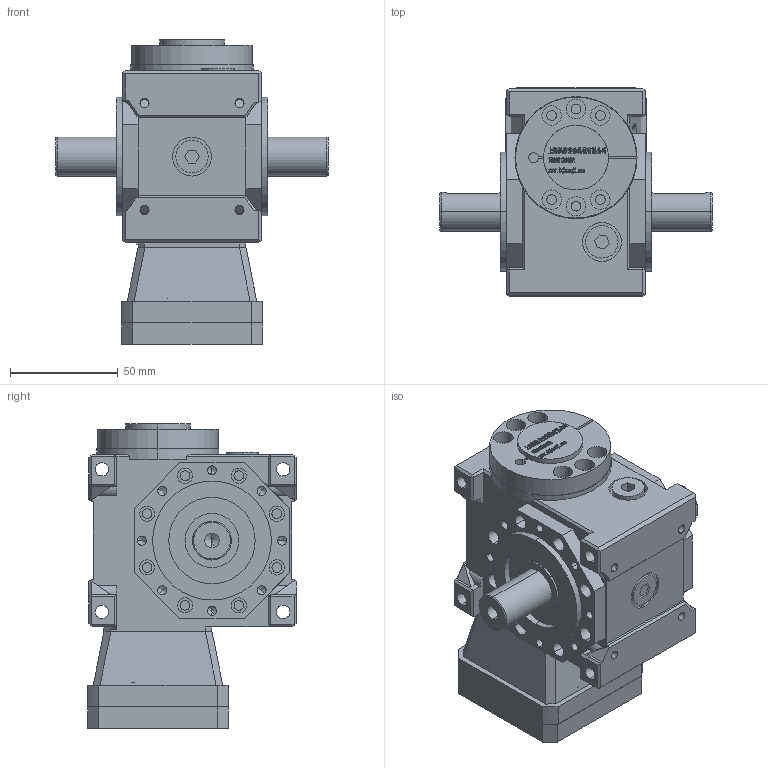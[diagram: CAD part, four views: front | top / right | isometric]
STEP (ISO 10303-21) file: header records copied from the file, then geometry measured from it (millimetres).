
FILE_DESCRIPTION (( 'STEP AP203' ), '1' );
FILE_NAME ('FXLB025-(5~90)-AB-14-50-70-M5.step', '2022-11-06T02:13:04', ( '' ), ( '' ), 'SwSTEP 2.0', 'SolidWorks 2020', '' );
FILE_SCHEMA (( 'CONFIG_CONTROL_DESIGN' ));
Length unit declared in the file: millimetre
Products named in the file (8): ______BD29-33-9-14____.step; JDLB025-ST60________.step; 錨璃74^FXLB025-(5~90)-AB-14-50-70-M5; JDLB025-CR____.step; ST60-50-70-M6____________.step; JDLB025-AB________14.step; FXLB025-(5~90)-AB-14-50-70-M5.step; FXLB025-(5~90)-AB-14-50-70-M5
Assembly tree (7 placements, depth 3):
  FXLB025-(5~90)-AB-14-50-70-M5
    FXLB025-(5~90)-AB-14-50-70-M5.step
      JDLB025-CR____.step
      JDLB025-ST60________.step
      JDLB025-AB________14.step
      ST60-50-70-M6____________.step
      ______BD29-33-9-14____.step
    錨璃74^FXLB025-(5~90)-AB-14-50-70-M5
Bounding box: 126 x 96.5 x 141.2 mm (x, y, z)
Volume: 599809.6 mm3; surface area: 129814.9 mm2
Topology: 82 solids, 86 shells, 2698 faces, 7056 edges, 4607 vertices
Faces by surface type: plane 1584, bspline 584, cylinder 422, cone 88, torus 20
Entity records: 108328 total; most frequent: CARTESIAN_POINT 44758, ORIENTED_EDGE 13980, DIRECTION 10896, EDGE_CURVE 6990, VECTOR 4812, LINE 4812, VERTEX_POINT 4607, AXIS2_PLACEMENT_3D 3042
